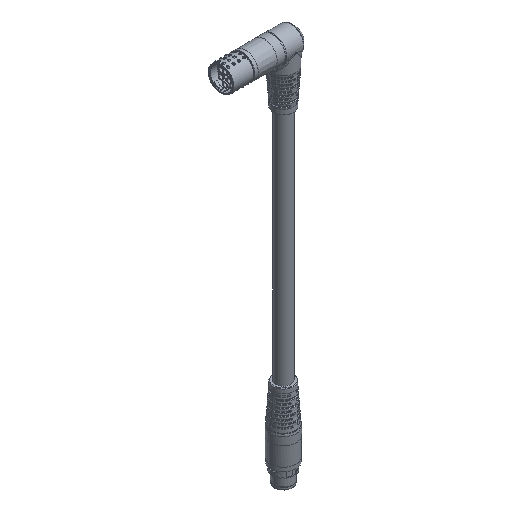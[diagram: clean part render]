
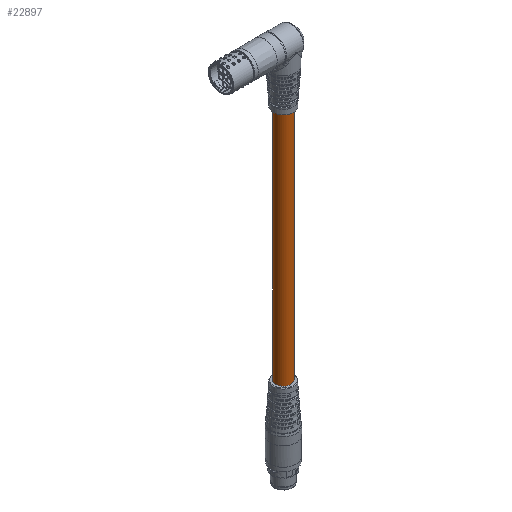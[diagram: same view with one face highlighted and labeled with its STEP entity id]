
A CAD part, isometric view. The second image highlights one B-rep face of the part: STEP entity #22897.
In plain terms, the highlighted cylindrical face has radius 6.4 mm (diameter 12.8 mm), a full revolution.
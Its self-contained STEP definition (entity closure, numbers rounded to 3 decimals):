
#1981 = ORIENTED_EDGE ( 'NONE', *, *, #41538, .T. ) ;
#2410 = AXIS2_PLACEMENT_3D ( 'NONE', #13991, #39511, #14786 ) ;
#2799 = CARTESIAN_POINT ( 'NONE',  ( -43.259, 42.123, -58.665 ) ) ;
#8833 = ORIENTED_EDGE ( 'NONE', *, *, #36259, .F. ) ;
#9234 = VERTEX_POINT ( 'NONE', #40641 ) ;
#11371 = FACE_OUTER_BOUND ( 'NONE', #15257, .T. ) ;
#11634 = DIRECTION ( 'NONE',  ( 0., 0., 1. ) ) ;
#13991 = CARTESIAN_POINT ( 'NONE',  ( -43.259, 42.123, -258.665 ) ) ;
#14786 = DIRECTION ( 'NONE',  ( 0.795, 0.606, 0. ) ) ;
#15257 = EDGE_LOOP ( 'NONE', ( #8833 ) ) ;
#18030 = DIRECTION ( 'NONE',  ( 0., 0., 1. ) ) ;
#19088 = CARTESIAN_POINT ( 'NONE',  ( -43.259, 42.123, -258.665 ) ) ;
#19618 = FACE_OUTER_BOUND ( 'NONE', #49617, .T. ) ;
#21722 = DIRECTION ( 'NONE',  ( 0.795, 0.606, 0. ) ) ;
#22800 = DIRECTION ( 'NONE',  ( 0.795, 0.606, 0. ) ) ;
#22897 = ADVANCED_FACE ( 'NONE', ( #19618, #11371 ), #47567, .T. ) ;
#24401 = VERTEX_POINT ( 'NONE', #29470 ) ;
#24490 = CIRCLE ( 'NONE', #2410, 6.4 ) ;
#28311 = AXIS2_PLACEMENT_3D ( 'NONE', #2799, #18030, #21722 ) ;
#29470 = CARTESIAN_POINT ( 'NONE',  ( -38.17, 46.004, -58.665 ) ) ;
#30602 = AXIS2_PLACEMENT_3D ( 'NONE', #19088, #11634, #22800 ) ;
#34261 = CIRCLE ( 'NONE', #28311, 6.4 ) ;
#36259 = EDGE_CURVE ( 'NONE', #24401, #24401, #34261, .T. ) ;
#39511 = DIRECTION ( 'NONE',  ( 0., 0., 1. ) ) ;
#40641 = CARTESIAN_POINT ( 'NONE',  ( -38.17, 46.004, -258.665 ) ) ;
#41538 = EDGE_CURVE ( 'NONE', #9234, #9234, #24490, .T. ) ;
#47567 = CYLINDRICAL_SURFACE ( 'NONE', #30602, 6.4 ) ;
#49617 = EDGE_LOOP ( 'NONE', ( #1981 ) ) ;
